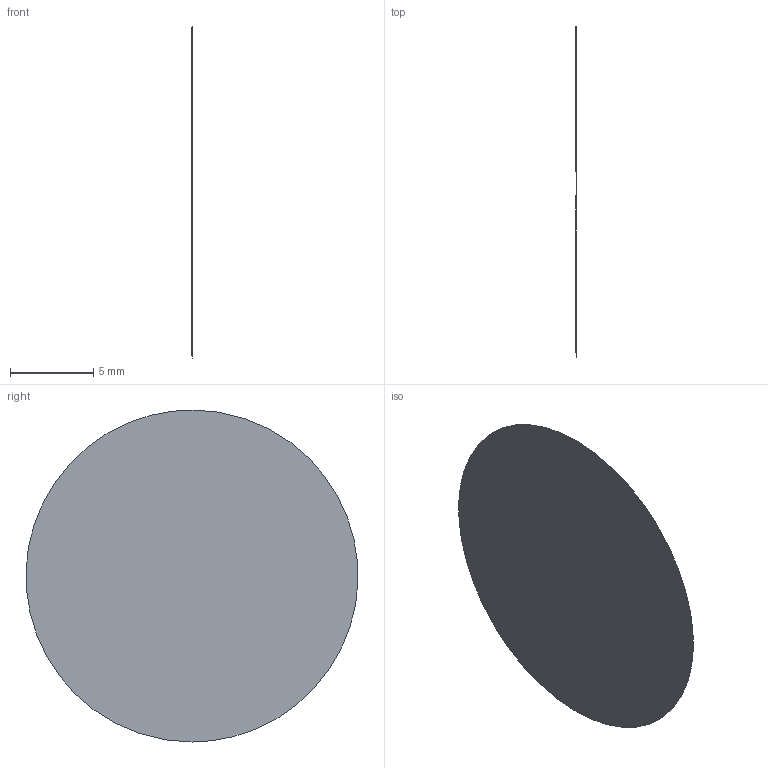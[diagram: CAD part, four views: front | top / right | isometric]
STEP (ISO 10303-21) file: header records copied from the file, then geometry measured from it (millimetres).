
FILE_DESCRIPTION(('Open CASCADE Model'),'2;1');
FILE_NAME('Open CASCADE Shape Model','2019-05-09T11:08:26',('Author'),( 'Open CASCADE'),'Open CASCADE STEP processor 6.9','Open CASCADE 6.9' ,'Unknown');
FILE_SCHEMA(('AUTOMOTIVE_DESIGN { 1 0 10303 214 1 1 1 1 }'));
Length unit declared in the file: millimetre
Products named in the file (1): XFlow STEP translator 8
Bounding box: 0 x 19.98 x 20 mm (x, y, z)
Surface area: 314.1 mm2 (no closed solid volume)
Topology: 0 solids, 1 shells, 1 faces, 2 edges, 2 vertices
Faces by surface type: plane 1
Entity records: 60 total; most frequent: CARTESIAN_POINT 24, DIRECTION 4, AXIS2_PLACEMENT_3D 2, ORIENTED_EDGE 2, EDGE_CURVE 2, VERTEX_POINT 2, SURFACE_CURVE 2, PCURVE 2
